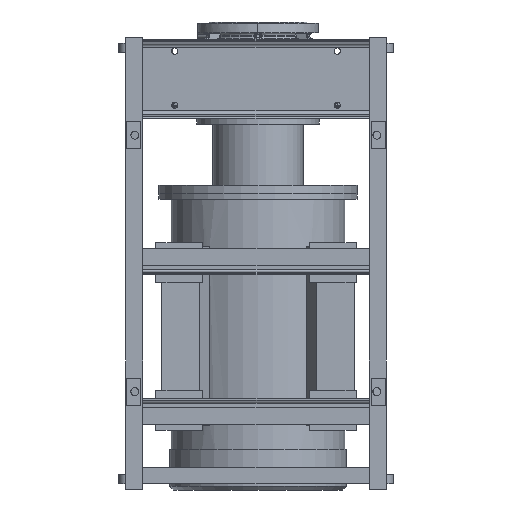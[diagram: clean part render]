
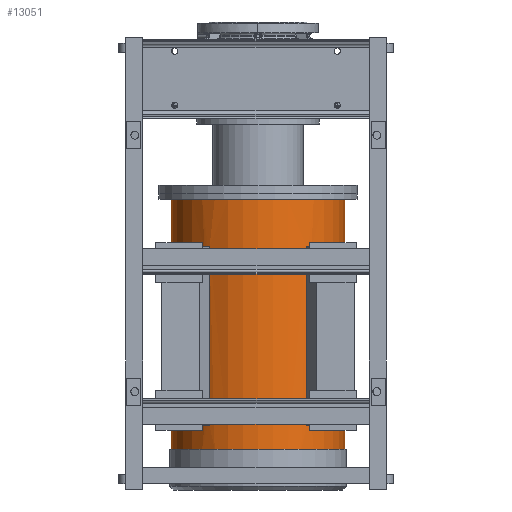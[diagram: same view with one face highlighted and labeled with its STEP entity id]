
A CAD part, front view. The second image highlights one B-rep face of the part: STEP entity #13051.
In plain terms, the highlighted cylindrical face has radius 240 mm (diameter 480 mm), a partial arc.
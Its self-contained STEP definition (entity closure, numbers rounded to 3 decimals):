
#1635 = DIRECTION ( 'NONE',  ( -1., 0., 0. ) ) ;
#2056 = CARTESIAN_POINT ( 'NONE',  ( 240., 0., -1022.8 ) ) ;
#4880 = DIRECTION ( 'NONE',  ( 0., 0., -1. ) ) ;
#4999 = ORIENTED_EDGE ( 'NONE', *, *, #47597, .T. ) ;
#6092 = DIRECTION ( 'NONE',  ( 1., 0., 0. ) ) ;
#6457 = CIRCLE ( 'NONE', #35749, 240. ) ;
#7725 = VERTEX_POINT ( 'NONE', #50731 ) ;
#10315 = DIRECTION ( 'NONE',  ( 0., 0., 1. ) ) ;
#10413 = FACE_OUTER_BOUND ( 'NONE', #83797, .T. ) ;
#13051 = ADVANCED_FACE ( 'NONE', ( #10413, #48226, #38824 ), #45509, .T. ) ;
#14059 = CARTESIAN_POINT ( 'NONE',  ( 0., 0., -462.8 ) ) ;
#15913 = CARTESIAN_POINT ( 'NONE',  ( 134.196, -198.976, -462.8 ) ) ;
#16245 = AXIS2_PLACEMENT_3D ( 'NONE', #14059, #82689, #6092 ) ;
#16634 = CARTESIAN_POINT ( 'NONE',  ( -148.813, -188.294, -462.8 ) ) ;
#17136 = VERTEX_POINT ( 'NONE', #69812 ) ;
#18486 = VERTEX_POINT ( 'NONE', #26720 ) ;
#20102 = VERTEX_POINT ( 'NONE', #72089 ) ;
#22020 = EDGE_CURVE ( 'NONE', #18486, #71867, #68427, .T. ) ;
#22959 = AXIS2_PLACEMENT_3D ( 'NONE', #30638, #90595, #98521 ) ;
#24327 = CARTESIAN_POINT ( 'NONE',  ( -134.196, -198.976, -1135.8 ) ) ;
#25039 = CARTESIAN_POINT ( 'NONE',  ( 240., 0., -1135.8 ) ) ;
#25542 = CIRCLE ( 'NONE', #22959, 240. ) ;
#26350 = LINE ( 'NONE', #48287, #110010 ) ;
#26720 = CARTESIAN_POINT ( 'NONE',  ( -240., 0., -330.8 ) ) ;
#30565 = DIRECTION ( 'NONE',  ( 0., 0., -1. ) ) ;
#30638 = CARTESIAN_POINT ( 'NONE',  ( 0., 0., -1022.8 ) ) ;
#33862 = EDGE_CURVE ( 'NONE', #73317, #71867, #25542, .T. ) ;
#35749 = AXIS2_PLACEMENT_3D ( 'NONE', #44685, #10315, #1635 ) ;
#36061 = AXIS2_PLACEMENT_3D ( 'NONE', #101039, #58429, #49363 ) ;
#36286 = VECTOR ( 'NONE', #109202, 1000. ) ;
#37284 = VERTEX_POINT ( 'NONE', #93396 ) ;
#37701 = CIRCLE ( 'NONE', #16245, 240. ) ;
#38824 = FACE_BOUND ( 'NONE', #56754, .T. ) ;
#39443 = VERTEX_POINT ( 'NONE', #55251 ) ;
#39619 = DIRECTION ( 'NONE',  ( 1., 0., 0. ) ) ;
#40251 = VECTOR ( 'NONE', #57654, 1000. ) ;
#40867 = LINE ( 'NONE', #25039, #50289 ) ;
#43328 = ORIENTED_EDGE ( 'NONE', *, *, #98058, .F. ) ;
#44685 = CARTESIAN_POINT ( 'NONE',  ( 0., 0., -957.8 ) ) ;
#45509 = CYLINDRICAL_SURFACE ( 'NONE', #60816, 240. ) ;
#45631 = DIRECTION ( 'NONE',  ( -1., 0., 0. ) ) ;
#45976 = DIRECTION ( 'NONE',  ( 0., 0., -1. ) ) ;
#47527 = DIRECTION ( 'NONE',  ( -1., 0., 0. ) ) ;
#47597 = EDGE_CURVE ( 'NONE', #37284, #17136, #105640, .T. ) ;
#48226 = FACE_BOUND ( 'NONE', #64707, .T. ) ;
#48287 = CARTESIAN_POINT ( 'NONE',  ( 148.813, -188.294, -1135.8 ) ) ;
#49363 = DIRECTION ( 'NONE',  ( -1., 0., 0. ) ) ;
#50289 = VECTOR ( 'NONE', #67676, 1000. ) ;
#50731 = CARTESIAN_POINT ( 'NONE',  ( 148.813, -188.294, -957.8 ) ) ;
#52098 = VECTOR ( 'NONE', #45976, 1000. ) ;
#53559 = CARTESIAN_POINT ( 'NONE',  ( 134.196, -198.976, -957.8 ) ) ;
#55251 = CARTESIAN_POINT ( 'NONE',  ( 148.813, -188.294, -462.8 ) ) ;
#55394 = EDGE_CURVE ( 'NONE', #103291, #39443, #102512, .T. ) ;
#56600 = EDGE_CURVE ( 'NONE', #37284, #20102, #79390, .T. ) ;
#56754 = EDGE_LOOP ( 'NONE', ( #60487, #4999, #64664, #43328 ) ) ;
#56933 = CARTESIAN_POINT ( 'NONE',  ( 0., 0., -1135.8 ) ) ;
#57654 = DIRECTION ( 'NONE',  ( 0., 0., 1. ) ) ;
#58429 = DIRECTION ( 'NONE',  ( 0., 0., -1. ) ) ;
#59131 = DIRECTION ( 'NONE',  ( 0., 0., -1. ) ) ;
#60487 = ORIENTED_EDGE ( 'NONE', *, *, #56600, .F. ) ;
#60816 = AXIS2_PLACEMENT_3D ( 'NONE', #56933, #64152, #47527 ) ;
#63949 = ORIENTED_EDGE ( 'NONE', *, *, #33862, .F. ) ;
#64152 = DIRECTION ( 'NONE',  ( 0., 0., -1. ) ) ;
#64231 = EDGE_CURVE ( 'NONE', #39443, #7725, #26350, .T. ) ;
#64664 = ORIENTED_EDGE ( 'NONE', *, *, #104817, .F. ) ;
#64707 = EDGE_LOOP ( 'NONE', ( #100985, #107671, #100088, #85694 ) ) ;
#66224 = CARTESIAN_POINT ( 'NONE',  ( -240., 0., -1022.8 ) ) ;
#67676 = DIRECTION ( 'NONE',  ( 0., 0., -1. ) ) ;
#68070 = EDGE_CURVE ( 'NONE', #91368, #73317, #40867, .T. ) ;
#68427 = LINE ( 'NONE', #97238, #52098 ) ;
#69812 = CARTESIAN_POINT ( 'NONE',  ( -148.813, -188.294, -957.8 ) ) ;
#70771 = LINE ( 'NONE', #92294, #97813 ) ;
#71867 = VERTEX_POINT ( 'NONE', #66224 ) ;
#72089 = CARTESIAN_POINT ( 'NONE',  ( -134.196, -198.976, -462.8 ) ) ;
#73317 = VERTEX_POINT ( 'NONE', #2056 ) ;
#73521 = CARTESIAN_POINT ( 'NONE',  ( 0., 0., -957.8 ) ) ;
#75675 = ORIENTED_EDGE ( 'NONE', *, *, #68070, .F. ) ;
#77576 = CIRCLE ( 'NONE', #36061, 240. ) ;
#79390 = LINE ( 'NONE', #24327, #36286 ) ;
#80266 = DIRECTION ( 'NONE',  ( 0., 0., 1. ) ) ;
#81457 = VERTEX_POINT ( 'NONE', #16634 ) ;
#82689 = DIRECTION ( 'NONE',  ( 0., 0., -1. ) ) ;
#83156 = CARTESIAN_POINT ( 'NONE',  ( 240., 0., -330.8 ) ) ;
#83797 = EDGE_LOOP ( 'NONE', ( #75675, #95699, #86182, #63949 ) ) ;
#85165 = CARTESIAN_POINT ( 'NONE',  ( 134.196, -198.976, -1135.8 ) ) ;
#85694 = ORIENTED_EDGE ( 'NONE', *, *, #64231, .T. ) ;
#86182 = ORIENTED_EDGE ( 'NONE', *, *, #22020, .T. ) ;
#87870 = CARTESIAN_POINT ( 'NONE',  ( 0., 0., -462.8 ) ) ;
#88810 = LINE ( 'NONE', #85165, #40251 ) ;
#90595 = DIRECTION ( 'NONE',  ( 0., 0., -1. ) ) ;
#91368 = VERTEX_POINT ( 'NONE', #83156 ) ;
#92294 = CARTESIAN_POINT ( 'NONE',  ( -148.813, -188.294, -1135.8 ) ) ;
#93396 = CARTESIAN_POINT ( 'NONE',  ( -134.196, -198.976, -957.8 ) ) ;
#95699 = ORIENTED_EDGE ( 'NONE', *, *, #104355, .T. ) ;
#97007 = EDGE_CURVE ( 'NONE', #106185, #103291, #88810, .T. ) ;
#97238 = CARTESIAN_POINT ( 'NONE',  ( -240., 0., -1135.8 ) ) ;
#97669 = EDGE_CURVE ( 'NONE', #106185, #7725, #6457, .T. ) ;
#97813 = VECTOR ( 'NONE', #59131, 1000. ) ;
#98058 = EDGE_CURVE ( 'NONE', #20102, #81457, #37701, .T. ) ;
#98521 = DIRECTION ( 'NONE',  ( -1., 0., 0. ) ) ;
#99137 = AXIS2_PLACEMENT_3D ( 'NONE', #87870, #80266, #45631 ) ;
#100088 = ORIENTED_EDGE ( 'NONE', *, *, #55394, .T. ) ;
#100985 = ORIENTED_EDGE ( 'NONE', *, *, #97669, .F. ) ;
#101039 = CARTESIAN_POINT ( 'NONE',  ( 0., 0., -330.8 ) ) ;
#102512 = CIRCLE ( 'NONE', #99137, 240. ) ;
#103291 = VERTEX_POINT ( 'NONE', #15913 ) ;
#104355 = EDGE_CURVE ( 'NONE', #91368, #18486, #77576, .T. ) ;
#104817 = EDGE_CURVE ( 'NONE', #81457, #17136, #70771, .T. ) ;
#105640 = CIRCLE ( 'NONE', #111077, 240. ) ;
#106185 = VERTEX_POINT ( 'NONE', #53559 ) ;
#107671 = ORIENTED_EDGE ( 'NONE', *, *, #97007, .T. ) ;
#109202 = DIRECTION ( 'NONE',  ( 0., 0., 1. ) ) ;
#110010 = VECTOR ( 'NONE', #4880, 1000. ) ;
#111077 = AXIS2_PLACEMENT_3D ( 'NONE', #73521, #30565, #39619 ) ;
